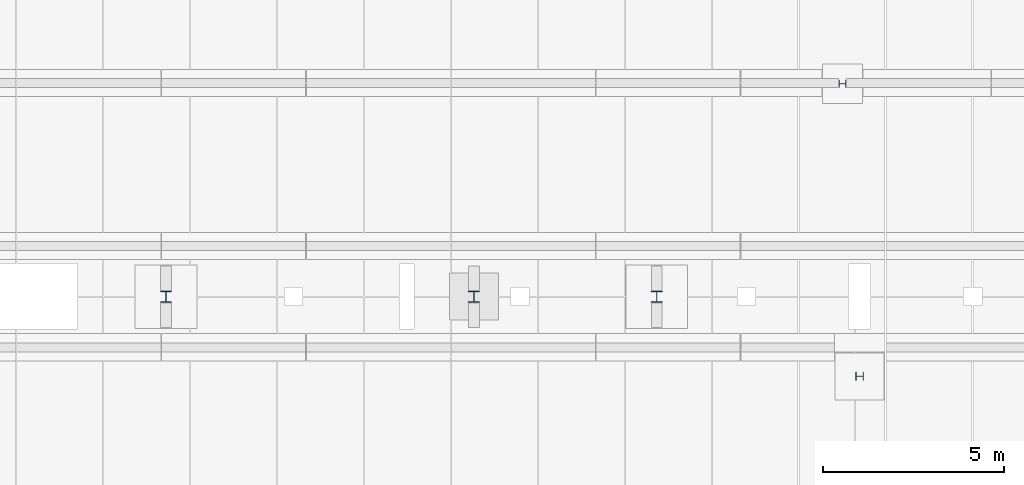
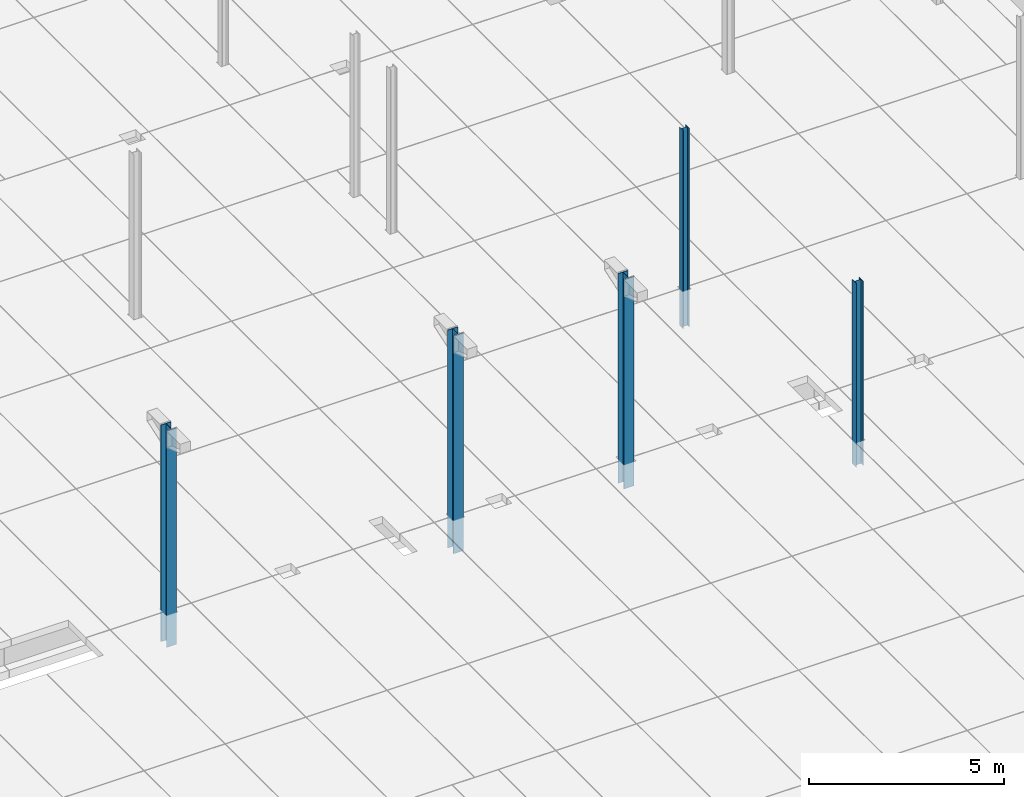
# One storey, part 27 of 59: 5 columns.
"""IFC2X3 building model written with IfcOpenShell, lengths in metres."""

from ifc_helpers import new_model, entity, si_unit, converted_unit, derived_unit, frame, origin, origin_with_axes, place, context, subcontext, project, spatial, polyline, outline, extrude, material, element, save


model = new_model("IFC2X3")

# Units and contexts
model_context = context("Model", 3, precision=1e-05, world=origin())
body_context = subcontext(model_context, "Body", "Model", "MODEL_VIEW")
ifc_project = project(units=[si_unit("LENGTHUNIT", "METRE"), si_unit("AREAUNIT", "SQUARE_METRE"), si_unit("VOLUMEUNIT", "CUBIC_METRE"), si_unit("MASSUNIT", "GRAM", prefix="KILO"), converted_unit("PLANEANGLEUNIT", "DEGREE", entity("IfcPlaneAngleMeasure", 0.0174532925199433), si_unit("PLANEANGLEUNIT", "RADIAN"), dimensions=[0, 0, 0, 0, 0, 0, 0]), derived_unit("THERMALTRANSMITTANCEUNIT", [(si_unit("POWERUNIT", "WATT"), 1), (si_unit("THERMODYNAMICTEMPERATUREUNIT", "KELVIN"), -1), (si_unit("LENGTHUNIT", "METRE"), -2)]), derived_unit("VOLUMETRICFLOWRATEUNIT", [(si_unit("LENGTHUNIT", "METRE"), 3), (converted_unit("TIMEUNIT", "hour", entity("IfcTimeMeasure", 3600.0), si_unit("TIMEUNIT", "SECOND"), dimensions=[0, 0, 1, 0, 0, 0, 0]), -1), (si_unit("LENGTHUNIT", "METRE"), -1)])], contexts=[model_context])

# Site, building, storey
site_placement = place(None, origin())
site = spatial("IfcSite", under=ifc_project, at=site_placement, Name="TWP_Speiseverteilzentrum SBW VZ II", CompositionType="ELEMENT")
building_placement = place(site_placement, origin())
building = spatial("IfcBuilding", under=site, at=building_placement, Name="Speiseverteilzentrum SBW VZ II", CompositionType="ELEMENT")
storey_placement = place(building_placement, frame((0.0, 0.0, 1.7307)))
storey = spatial("IfcBuildingStorey", under=building, at=storey_placement, Name="EG_Produktion_FFB", CompositionType="ELEMENT", Elevation=1.7307)

# Columns
ifc_material_1 = material(Name="S235")
column_1_placement = place(storey_placement, frame((56.3094595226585, 57.3796420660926, -1.45)))
element("IfcColumn", 1, at=column_1_placement, inside=storey, material=ifc_material_1, Name="Stahlstütze", context=body_context, shape_type="SweptSolid", body=[
    extrude(outline(polyline([(0.19, 0.0), (0.19, 0.2), (0.18, 0.2), (0.18, 0.10325), (0.01, 0.10325), (0.01, 0.2), (0.0, 0.2), (0.0, 0.0), (0.01, 0.0), (0.01, 0.09675), (0.18, 0.09675), (0.18, 0.0), (0.19, 0.0)])), origin_with_axes(), (0.0, 0.0, 1.0), 6.22),
])
ifc_material_2 = material(Name="S235")
column_2_placement = place(storey_placement, frame((46.0749999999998, 51.4451031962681, -1.31)))
element("IfcColumn", 2, at=column_2_placement, inside=storey, material=ifc_material_2, Name="Stahlstütze", context=body_context, shape_type="SweptSolid", body=[
    extrude(outline(polyline([(0.0, 0.0), (0.3, 0.0), (0.3, 0.0155), (0.1545, 0.0155), (0.1545, 0.2945), (0.3, 0.2945), (0.3, 0.31), (0.0, 0.31), (0.0, 0.2945), (0.1455, 0.2945), (0.1455, 0.0155), (0.0, 0.0155), (0.0, 0.0)])), origin_with_axes(), (0.0, 0.0, 1.0), 6.8293),
])
ifc_material_3 = material(Name="S235")
column_3_placement = place(storey_placement, frame((37.5749999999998, 51.4451031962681, -1.27)))
element("IfcColumn", 3, at=column_3_placement, inside=storey, material=ifc_material_3, Name="Stahlstütze", context=body_context, shape_type="SweptSolid", body=[
    extrude(outline(polyline([(0.0, 0.0), (0.3, 0.0), (0.3, 0.0155), (0.1545, 0.0155), (0.1545, 0.2945), (0.3, 0.2945), (0.3, 0.31), (0.0, 0.31), (0.0, 0.2945), (0.1455, 0.2945), (0.1455, 0.0155), (0.0, 0.0155), (0.0, 0.0)])), origin_with_axes(), (0.0, 0.0, 1.0), 6.7893),
])
ifc_material_4 = material(Name="S235")
column_4_placement = place(storey_placement, frame((51.1249999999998, 51.4451031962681, -1.05)))
element("IfcColumn", 4, at=column_4_placement, inside=storey, material=ifc_material_4, Name="Stahlstütze", context=body_context, shape_type="SweptSolid", body=[
    extrude(outline(polyline([(0.0, 0.0), (0.3, 0.0), (0.3, 0.0155), (0.1545, 0.0155), (0.1545, 0.2945), (0.3, 0.2945), (0.3, 0.31), (0.0, 0.31), (0.0, 0.2945), (0.1455, 0.2945), (0.1455, 0.0155), (0.0, 0.0155), (0.0, 0.0)])), origin_with_axes(), (0.0, 0.0, 1.0), 6.5693),
])
ifc_material_5 = material(Name="S235")
column_5_placement = place(storey_placement, frame((56.7712471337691, 49.289720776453, -1.05)))
element("IfcColumn", 5, at=column_5_placement, inside=storey, material=ifc_material_5, Name="Stahlstütze", context=body_context, shape_type="SweptSolid", body=[
    extrude(outline(polyline([(0.21, 0.0), (0.21, 0.22), (0.199, 0.22), (0.199, 0.1135), (0.011, 0.1135), (0.011, 0.22), (0.0, 0.22), (0.0, 0.0), (0.011, 0.0), (0.011, 0.1065), (0.199, 0.1065), (0.199, 0.0), (0.21, 0.0)])), origin_with_axes(), (0.0, 0.0, 1.0), 5.77),
])

save(model, "model.ifc")
